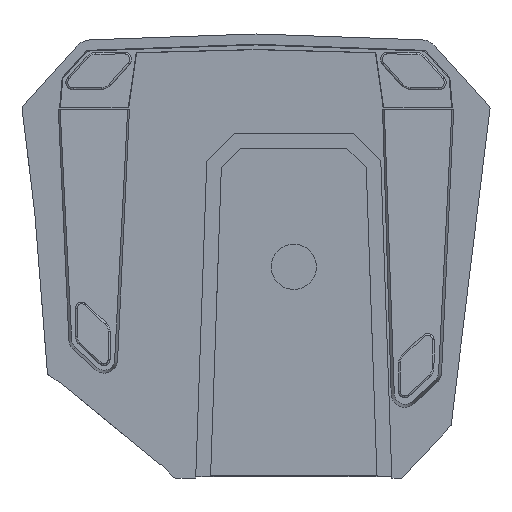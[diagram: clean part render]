
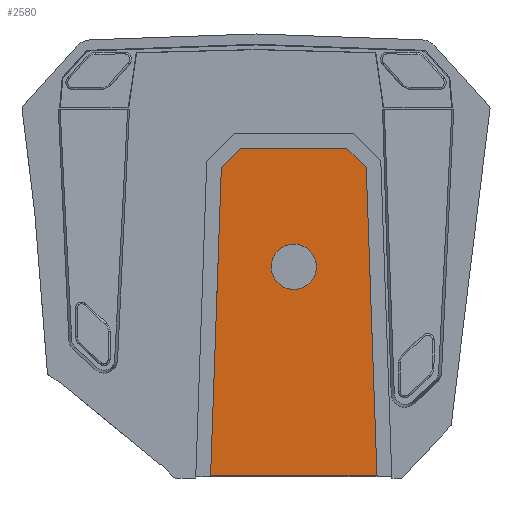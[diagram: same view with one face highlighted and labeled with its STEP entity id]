
A CAD part, front view. The second image highlights one B-rep face of the part: STEP entity #2580.
In plain terms, the highlighted planar face has unit normal (0, -0.999, -0.052).
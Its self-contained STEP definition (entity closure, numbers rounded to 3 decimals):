
#123 = CARTESIAN_POINT ( 'NONE',  ( -35.178, -290.867, -284.5 ) ) ;
#167 = FACE_OUTER_BOUND ( 'NONE', #1728, .T. ) ;
#262 = CARTESIAN_POINT ( 'NONE',  ( 29.28, -300.254, -105.379 ) ) ;
#338 = VECTOR ( 'NONE', #8941, 1000. ) ;
#593 = ORIENTED_EDGE ( 'NONE', *, *, #7360, .F. ) ;
#620 = VERTEX_POINT ( 'NONE', #10732 ) ;
#660 = CARTESIAN_POINT ( 'NONE',  ( -35.401, -290.531, -290.904 ) ) ;
#1018 = DIRECTION ( 'NONE',  ( 0., -0.999, -0.052 ) ) ;
#1380 = CARTESIAN_POINT ( 'NONE',  ( 64.28, -300.254, -105.379 ) ) ;
#1692 = ORIENTED_EDGE ( 'NONE', *, *, #7700, .T. ) ;
#1728 = EDGE_LOOP ( 'NONE', ( #593, #3935, #1692, #4631, #3079, #3444 ) ) ;
#1764 = VECTOR ( 'NONE', #8429, 1000. ) ;
#1792 = VECTOR ( 'NONE', #4141, 1000. ) ;
#1938 = FACE_BOUND ( 'NONE', #7724, .T. ) ;
#1948 = ORIENTED_EDGE ( 'NONE', *, *, #5783, .F. ) ;
#1978 = LINE ( 'NONE', #9565, #7941 ) ;
#2095 = CARTESIAN_POINT ( 'NONE',  ( 93.719, -290.867, -284.5 ) ) ;
#2145 = LINE ( 'NONE', #10882, #5031 ) ;
#2170 = CARTESIAN_POINT ( 'NONE',  ( 29.28, -298.42, -140.379 ) ) ;
#2257 = VERTEX_POINT ( 'NONE', #123 ) ;
#2580 = ADVANCED_FACE ( 'NONE', ( #1938, #167 ), #6255, .T. ) ;
#2585 = LINE ( 'NONE', #4191, #1764 ) ;
#3079 = ORIENTED_EDGE ( 'NONE', *, *, #9014, .T. ) ;
#3212 = VECTOR ( 'NONE', #4314, 1000. ) ;
#3418 =( BOUNDED_CURVE ( )  B_SPLINE_CURVE ( 3, ( #10041, #6487, #5854, #9982 ),
 .UNSPECIFIED., .F., .T. ) 
 B_SPLINE_CURVE_WITH_KNOTS ( ( 4, 4 ),
 ( 0., 0.5 ),
 .UNSPECIFIED. ) 
 CURVE ( )  GEOMETRIC_REPRESENTATION_ITEM ( )  RATIONAL_B_SPLINE_CURVE ( ( 1., 0.333, 0.333, 1. ) ) 
 REPRESENTATION_ITEM ( '' )  );
#3444 = ORIENTED_EDGE ( 'NONE', *, *, #8875, .T. ) ;
#3452 = CARTESIAN_POINT ( 'NONE',  ( 0., -290.867, -284.5 ) ) ;
#3837 = CARTESIAN_POINT ( 'NONE',  ( -11.901, -304.146, -31.117 ) ) ;
#3935 = ORIENTED_EDGE ( 'NONE', *, *, #7541, .T. ) ;
#4045 = ORIENTED_EDGE ( 'NONE', *, *, #8225, .F. ) ;
#4141 = DIRECTION ( 'NONE',  ( -0.035, 0.052, -0.998 ) ) ;
#4191 = CARTESIAN_POINT ( 'NONE',  ( 70.431, -304.146, -31.117 ) ) ;
#4314 = DIRECTION ( 'NONE',  ( -1., 0., 0. ) ) ;
#4497 = DIRECTION ( 'NONE',  ( 0., 0.052, -0.999 ) ) ;
#4631 = ORIENTED_EDGE ( 'NONE', *, *, #9862, .T. ) ;
#4846 = CARTESIAN_POINT ( 'NONE',  ( 29.28, -300.254, -105.379 ) ) ;
#5031 = VECTOR ( 'NONE', #6416, 1000. ) ;
#5275 = DIRECTION ( 'NONE',  ( -0.707, 0.037, -0.707 ) ) ;
#5389 = VERTEX_POINT ( 'NONE', #8485 ) ;
#5783 = EDGE_CURVE ( 'NONE', #6164, #8961, #8847, .T. ) ;
#5854 = CARTESIAN_POINT ( 'NONE',  ( -5.72, -298.42, -140.379 ) ) ;
#6164 = VERTEX_POINT ( 'NONE', #6538 ) ;
#6255 = PLANE ( 'NONE',  #6770 ) ;
#6416 = DIRECTION ( 'NONE',  ( -0.035, -0.052, 0.998 ) ) ;
#6487 = CARTESIAN_POINT ( 'NONE',  ( -5.72, -300.254, -105.379 ) ) ;
#6538 = CARTESIAN_POINT ( 'NONE',  ( 29.28, -298.42, -140.379 ) ) ;
#6770 = AXIS2_PLACEMENT_3D ( 'NONE', #8729, #1018, #4497 ) ;
#7360 = EDGE_CURVE ( 'NONE', #8557, #2257, #10254, .T. ) ;
#7541 = EDGE_CURVE ( 'NONE', #8557, #5389, #2145, .T. ) ;
#7696 = LINE ( 'NONE', #660, #1792 ) ;
#7700 = EDGE_CURVE ( 'NONE', #5389, #8144, #2585, .T. ) ;
#7724 = EDGE_LOOP ( 'NONE', ( #1948, #4045 ) ) ;
#7941 = VECTOR ( 'NONE', #5275, 1000. ) ;
#8144 = VERTEX_POINT ( 'NONE', #9811 ) ;
#8225 = EDGE_CURVE ( 'NONE', #8961, #6164, #3418, .T. ) ;
#8429 = DIRECTION ( 'NONE',  ( -0.707, -0.037, 0.707 ) ) ;
#8485 = CARTESIAN_POINT ( 'NONE',  ( 85.393, -303.362, -46.079 ) ) ;
#8557 = VERTEX_POINT ( 'NONE', #2095 ) ;
#8729 = CARTESIAN_POINT ( 'NONE',  ( 0., -304.939, -15.981 ) ) ;
#8847 =( BOUNDED_CURVE ( )  B_SPLINE_CURVE ( 3, ( #2170, #9145, #1380, #4846 ),
 .UNSPECIFIED., .F., .F. ) 
 B_SPLINE_CURVE_WITH_KNOTS ( ( 4, 4 ),
 ( 0.5, 1. ),
 .UNSPECIFIED. ) 
 CURVE ( )  GEOMETRIC_REPRESENTATION_ITEM ( )  RATIONAL_B_SPLINE_CURVE ( ( 1., 0.333, 0.333, 1. ) ) 
 REPRESENTATION_ITEM ( '' )  );
#8875 = EDGE_CURVE ( 'NONE', #620, #2257, #7696, .T. ) ;
#8941 = DIRECTION ( 'NONE',  ( -1., 0., 0. ) ) ;
#8961 = VERTEX_POINT ( 'NONE', #262 ) ;
#9014 = EDGE_CURVE ( 'NONE', #9616, #620, #1978, .T. ) ;
#9145 = CARTESIAN_POINT ( 'NONE',  ( 64.28, -298.42, -140.379 ) ) ;
#9565 = CARTESIAN_POINT ( 'NONE',  ( -26.851, -303.363, -46.068 ) ) ;
#9616 = VERTEX_POINT ( 'NONE', #10073 ) ;
#9811 = CARTESIAN_POINT ( 'NONE',  ( 70.431, -304.146, -31.117 ) ) ;
#9862 = EDGE_CURVE ( 'NONE', #8144, #9616, #10869, .T. ) ;
#9982 = CARTESIAN_POINT ( 'NONE',  ( 29.28, -298.42, -140.379 ) ) ;
#10041 = CARTESIAN_POINT ( 'NONE',  ( 29.28, -300.254, -105.379 ) ) ;
#10073 = CARTESIAN_POINT ( 'NONE',  ( -11.901, -304.146, -31.117 ) ) ;
#10254 = LINE ( 'NONE', #3452, #3212 ) ;
#10732 = CARTESIAN_POINT ( 'NONE',  ( -26.851, -303.363, -46.068 ) ) ;
#10869 = LINE ( 'NONE', #3837, #338 ) ;
#10882 = CARTESIAN_POINT ( 'NONE',  ( 85.393, -303.362, -46.079 ) ) ;
